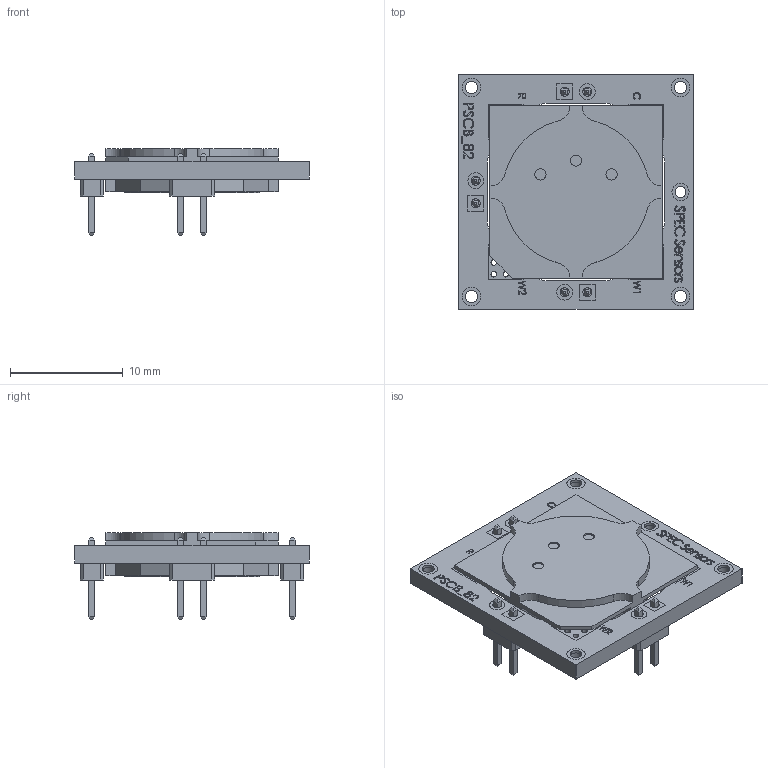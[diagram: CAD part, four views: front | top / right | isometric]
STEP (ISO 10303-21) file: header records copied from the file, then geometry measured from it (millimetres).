
FILE_DESCRIPTION (( 'STEP AP214' ), '1' );
FILE_NAME ('110-114 STEP.STEP', '2023-06-22T21:58:41', ( '' ), ( '' ), 'SwSTEP 2.0', 'SolidWorks 2017', '' );
FILE_SCHEMA (( 'AUTOMOTIVE_DESIGN' ));
Length unit declared in the file: millimetre
Products named in the file (6): 981-001; pinconnector; 100-110 STEP; Zebra Barcode; 110-114 STEP
Assembly tree (7 placements, depth 3):
  110-114 STEP
    100-110 STEP
    Zebra Barcode
    981-001
      981-001
      pinconnector  x3
Bounding box: 20.83 x 20.83 x 7.72 mm (x, y, z)
Volume: 974.7 mm3; surface area: 2033.4 mm2
Topology: 51 solids, 51 shells, 787 faces, 1993 edges, 1326 vertices
Faces by surface type: plane 438, bspline 191, cylinder 158
Full cylindrical faces by diameter (mm): 0.5 x64, 0.787 x12, 0.965 x2, 1 x3, 1.067 x8, 1.397 x6, 1.524 x2, 1.651 x8, 12 x1
Entity records: 34947 total; most frequent: CARTESIAN_POINT 14118, ORIENTED_EDGE 3374, DIRECTION 2683, EDGE_CURVE 1687, VERTEX_POINT 1190, EDGE_LOOP 1027, VECTOR 989, LINE 989
